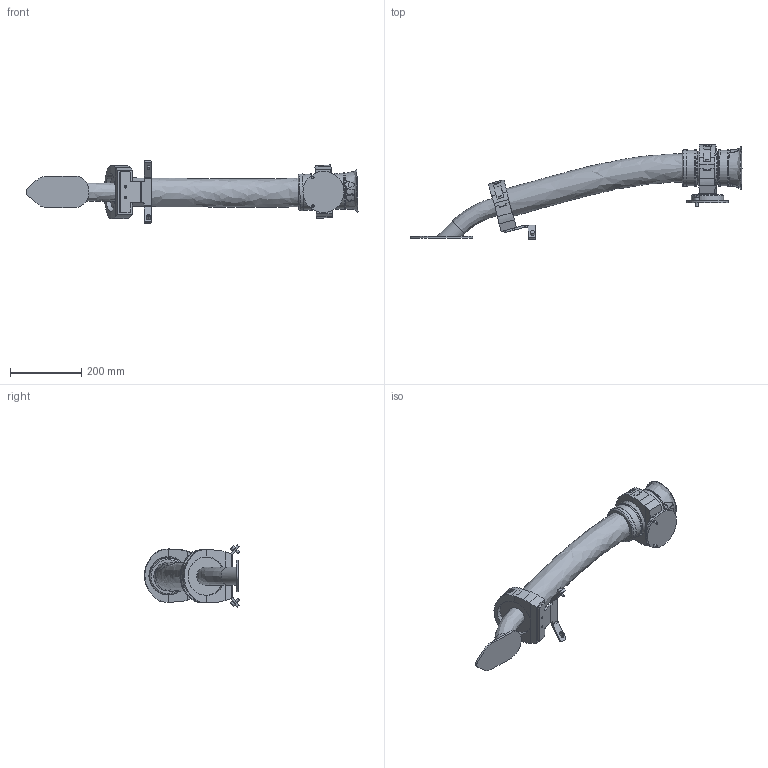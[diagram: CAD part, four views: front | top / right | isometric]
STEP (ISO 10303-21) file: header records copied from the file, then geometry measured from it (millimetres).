
FILE_DESCRIPTION (( 'STEP AP214' ), '1' );
FILE_NAME ('IRB6740-LID_270kg-280_OC_00_LINK04_CABLE.step', '2026-05-07T13:15:00', ( '' ), ( '' ), 'SwSTEP 2.0', 'SolidWorks 2024', '' );
FILE_SCHEMA (( 'AUTOMOTIVE_DESIGN' ));
Length unit declared in the file: millimetre
Products named in the file (1): IRB6740-LID_270kg-280_OC_00_LINK04_CABLE
Bounding box: 929.61 x 265.93 x 174.65 mm (x, y, z)
Volume: 5423901.5 mm3; surface area: 408308 mm2
Topology: 1 solids, 1 shells, 355 faces, 894 edges, 579 vertices
Faces by surface type: plane 221, cylinder 97, bspline 19, cone 11, torus 5, sphere 2
Full cylindrical faces by diameter (mm): 6.8 x2, 7 x4, 10.22 x8, 13 x4, 50 x1, 51 x1, 100 x2, 103 x4, 107.199 x4, 115 x1
Entity records: 18586 total; most frequent: CARTESIAN_POINT 6712, ORIENTED_EDGE 1622, DIRECTION 1578, EDGE_CURVE 811, AXIS2_PLACEMENT_3D 568, VERTEX_POINT 546, EDGE_LOOP 455, LINE 442
